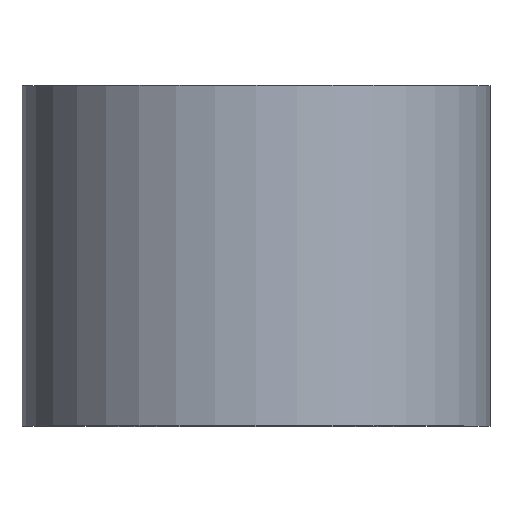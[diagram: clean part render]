
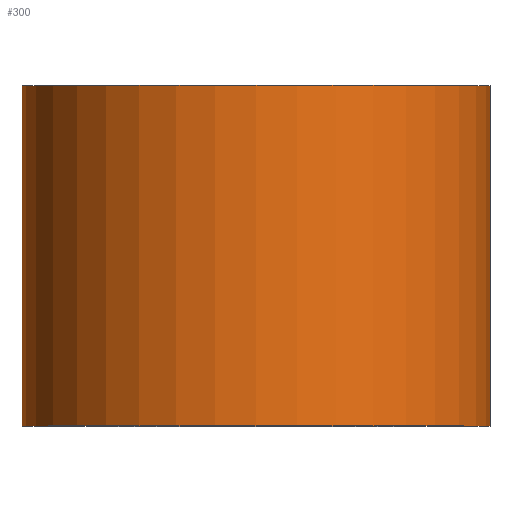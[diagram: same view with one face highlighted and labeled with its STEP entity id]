
A CAD part, top view. The second image highlights one B-rep face of the part: STEP entity #300.
In plain terms, the highlighted cylindrical face has radius 11 mm (diameter 22 mm), a partial arc.
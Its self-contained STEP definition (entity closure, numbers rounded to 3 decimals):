
#3 = ORIENTED_EDGE ( 'NONE', *, *, #262, .F. ) ;
#4 = CARTESIAN_POINT ( 'NONE',  ( -11., 0., 0. ) ) ;
#14 = EDGE_CURVE ( 'NONE', #73, #261, #43, .T. ) ;
#19 = FACE_OUTER_BOUND ( 'NONE', #257, .T. ) ;
#21 = DIRECTION ( 'NONE',  ( -1., 0., 0. ) ) ;
#25 = DIRECTION ( 'NONE',  ( 0., 1., 0. ) ) ;
#32 = DIRECTION ( 'NONE',  ( 0., 1., 0. ) ) ;
#33 = DIRECTION ( 'NONE',  ( 0., 1., 0. ) ) ;
#35 = VECTOR ( 'NONE', #25, 1000. ) ;
#37 = VERTEX_POINT ( 'NONE', #166 ) ;
#43 = LINE ( 'NONE', #95, #64 ) ;
#47 = DIRECTION ( 'NONE',  ( 0., 1., 0. ) ) ;
#52 = DIRECTION ( 'NONE',  ( -1., 0., 0. ) ) ;
#62 = EDGE_CURVE ( 'NONE', #235, #73, #115, .T. ) ;
#64 = VECTOR ( 'NONE', #32, 1000. ) ;
#73 = VERTEX_POINT ( 'NONE', #283 ) ;
#80 = AXIS2_PLACEMENT_3D ( 'NONE', #182, #47, #270 ) ;
#95 = CARTESIAN_POINT ( 'NONE',  ( 11., 0., 0. ) ) ;
#115 = CIRCLE ( 'NONE', #183, 11. ) ;
#134 = LINE ( 'NONE', #4, #35 ) ;
#144 = CARTESIAN_POINT ( 'NONE',  ( 0., 0., 0. ) ) ;
#162 = CARTESIAN_POINT ( 'NONE',  ( -11., 0., 0. ) ) ;
#166 = CARTESIAN_POINT ( 'NONE',  ( -11., 16., 0. ) ) ;
#170 = ORIENTED_EDGE ( 'NONE', *, *, #62, .T. ) ;
#182 = CARTESIAN_POINT ( 'NONE',  ( 0., 0., 0. ) ) ;
#183 = AXIS2_PLACEMENT_3D ( 'NONE', #144, #33, #52 ) ;
#191 = CYLINDRICAL_SURFACE ( 'NONE', #80, 11. ) ;
#192 = CIRCLE ( 'NONE', #221, 11. ) ;
#206 = DIRECTION ( 'NONE',  ( 0., 1., 0. ) ) ;
#221 = AXIS2_PLACEMENT_3D ( 'NONE', #252, #206, #21 ) ;
#224 = CARTESIAN_POINT ( 'NONE',  ( 11., 16., 0. ) ) ;
#229 = ORIENTED_EDGE ( 'NONE', *, *, #14, .T. ) ;
#235 = VERTEX_POINT ( 'NONE', #162 ) ;
#252 = CARTESIAN_POINT ( 'NONE',  ( 0., 16., 0. ) ) ;
#257 = EDGE_LOOP ( 'NONE', ( #170, #229, #3, #286 ) ) ;
#261 = VERTEX_POINT ( 'NONE', #224 ) ;
#262 = EDGE_CURVE ( 'NONE', #37, #261, #192, .T. ) ;
#270 = DIRECTION ( 'NONE',  ( -1., 0., 0. ) ) ;
#271 = EDGE_CURVE ( 'NONE', #235, #37, #134, .T. ) ;
#283 = CARTESIAN_POINT ( 'NONE',  ( 11., 0., 0. ) ) ;
#286 = ORIENTED_EDGE ( 'NONE', *, *, #271, .F. ) ;
#300 = ADVANCED_FACE ( 'NONE', ( #19 ), #191, .T. ) ;
